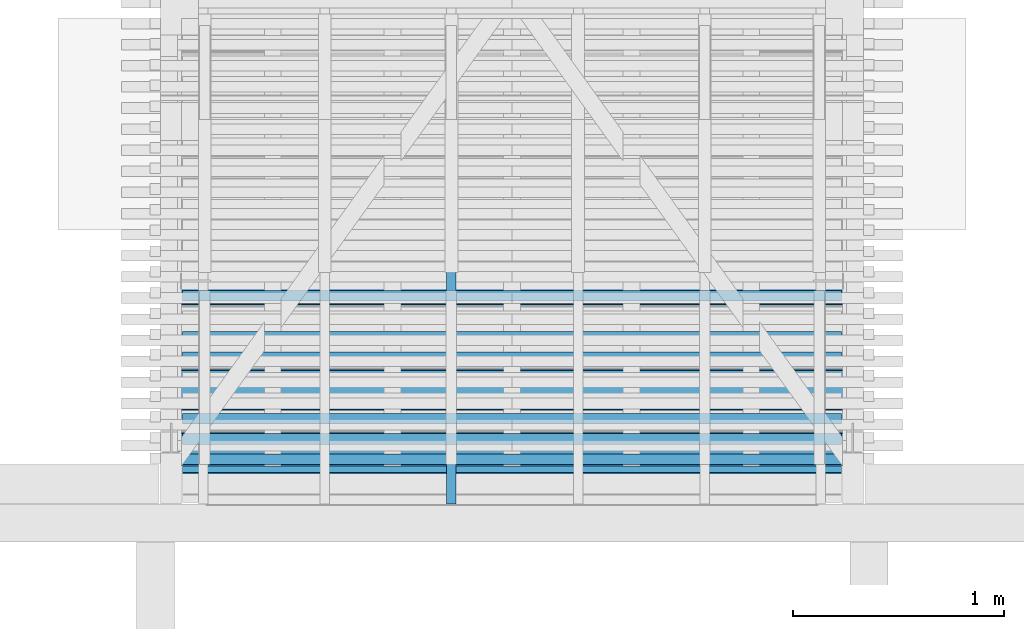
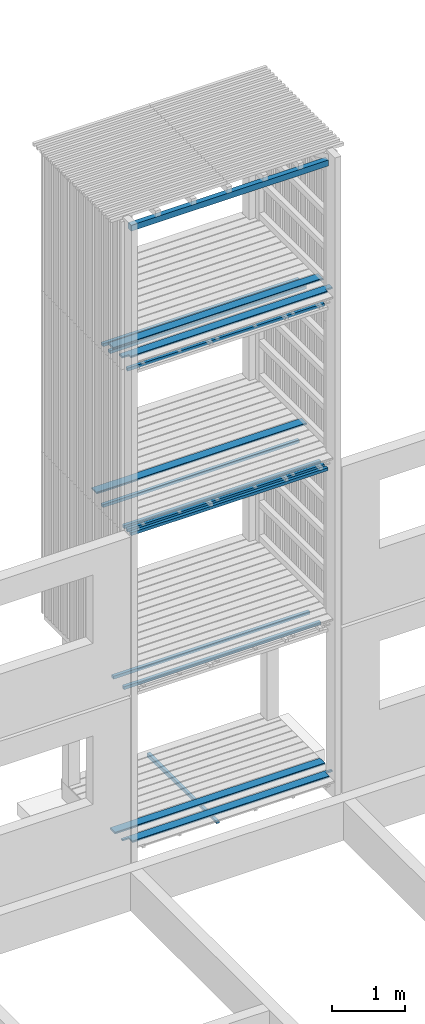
# One storey, part 37 of 182: 16 beams.
"""IFC2X3 building model written with IfcOpenShell, lengths in metres."""

from ifc_helpers import new_model, si_unit, frame, origin, place, context, project, spatial, faceted_brep, element, save


model = new_model("IFC2X3")

# Units and contexts
model_context = context("Model", 3, precision=1e-06, world=origin())
ifc_project = project(units=[si_unit("LENGTHUNIT", "METRE"), si_unit("PLANEANGLEUNIT", "RADIAN")], contexts=[model_context])

# Site, building, storey
site = spatial("IfcSite", under=ifc_project, CompositionType="ELEMENT")
building = spatial("IfcBuilding", under=site, CompositionType="ELEMENT")
storey = spatial("IfcBuildingStorey", under=building, Name="vs", CompositionType="ELEMENT", Elevation=-0.85)

# Beams
placement = place(None, origin())
beam_1_placement = place(placement, frame((16.654197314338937, 10.734577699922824, 8.13349999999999), z_axis=(0.0, 0.0, 1.0), x_axis=(-1.0, 0.0, 0.0)))
element("IfcBeam", 1, at=beam_1_placement, inside=storey, Name="Caillebotis", context=model_context, shape_type="Brep", body=[
    faceted_brep([(0.0, -0.072499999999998, -0.013500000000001), (0.0, -0.072499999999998, 0.0085), (0.0, -0.067499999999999, 0.013499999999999), (0.0, 0.019500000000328, 0.013499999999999), (0.0, 0.019500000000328, -0.013500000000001), (3.329999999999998, -0.067499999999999, 0.013499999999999), (3.329999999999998, 0.019500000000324, 0.013499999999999), (3.225000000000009, 0.019500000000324, 0.013499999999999), (3.225000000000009, 0.067500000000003, 0.013499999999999), (0.105000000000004, 0.067500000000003, 0.013499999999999), (0.105000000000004, 0.019500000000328, 0.013499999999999), (0.0, 0.019500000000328, 0.013499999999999), (0.0, -0.067499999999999, 0.013499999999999), (0.105000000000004, 0.019500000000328, 0.013499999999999), (0.105000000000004, 0.067500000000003, 0.013499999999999), (0.105000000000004, 0.072500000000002, 0.0085), (0.105000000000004, 0.072500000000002, -0.013500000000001), (0.105000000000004, 0.019500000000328, -0.013500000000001), (0.105000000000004, 0.072500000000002, 0.0085), (0.105000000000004, 0.067500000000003, 0.013499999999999), (3.225000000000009, 0.067500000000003, 0.013499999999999), (3.225000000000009, 0.072500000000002, 0.008499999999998), (0.105000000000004, 0.072500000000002, -0.013500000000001), (0.105000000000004, 0.072500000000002, 0.0085), (3.225000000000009, 0.072500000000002, 0.008499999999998), (3.225000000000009, 0.072500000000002, -0.013500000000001), (3.225000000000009, 0.072500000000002, -0.013500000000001), (3.225000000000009, 0.072500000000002, 0.008499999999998), (3.225000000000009, 0.067500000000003, 0.013499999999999), (3.225000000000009, 0.019500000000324, 0.013499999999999), (3.225000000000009, 0.019500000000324, -0.013500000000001), (3.225000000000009, 0.019500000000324, -0.013500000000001), (3.225000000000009, 0.019500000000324, 0.013499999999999), (3.329999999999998, 0.019500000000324, 0.013499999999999), (3.329999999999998, 0.019500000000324, -0.013500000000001), (3.329999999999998, -0.072499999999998, 0.0085), (3.329999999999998, -0.072499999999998, -0.013500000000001), (3.329999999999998, 0.019500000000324, -0.013500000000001), (3.329999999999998, 0.019500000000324, 0.013499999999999), (3.329999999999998, -0.067499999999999, 0.013499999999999), (3.329999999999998, -0.072499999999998, 0.0085), (3.329999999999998, -0.067499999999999, 0.013499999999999), (0.0, -0.067499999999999, 0.013499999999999), (0.0, -0.072499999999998, 0.0085), (3.329999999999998, -0.072499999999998, -0.013500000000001), (3.329999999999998, -0.072499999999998, 0.0085), (0.0, -0.072499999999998, 0.0085), (0.0, -0.072499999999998, -0.013500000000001), (0.105000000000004, 0.019500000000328, -0.013500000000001), (0.105000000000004, 0.072500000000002, -0.013500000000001), (3.225000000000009, 0.072500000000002, -0.013500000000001), (3.225000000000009, 0.019500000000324, -0.013500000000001), (3.329999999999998, 0.019500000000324, -0.013500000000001), (3.329999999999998, -0.072499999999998, -0.013500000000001), (0.0, -0.072499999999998, -0.013500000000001), (0.0, 0.019500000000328, -0.013500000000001), (0.0, 0.019500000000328, 0.013499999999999), (0.105000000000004, 0.019500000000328, 0.013499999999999), (0.105000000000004, 0.019500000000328, -0.013500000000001), (0.0, 0.019500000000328, -0.013500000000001)], [[[0, 1, 2, 3, 4]], [[5, 6, 7, 8, 9, 10, 11, 12]], [[13, 14, 15, 16, 17]], [[18, 19, 20, 21]], [[22, 23, 24, 25]], [[26, 27, 28, 29, 30]], [[31, 32, 33, 34]], [[35, 36, 37, 38, 39]], [[40, 41, 42, 43]], [[44, 45, 46, 47]], [[48, 49, 50, 51, 52, 53, 54, 55]], [[56, 57, 58, 59]]]),
])
beam_2_placement = place(placement, frame((14.70219731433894, 10.4700776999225, -0.015599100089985), z_axis=(0.0, 0.0, 1.0), x_axis=(0.0, 1.0, 0.0)))
element("IfcBeam", 2, at=beam_2_placement, inside=storey, Name="Calage", context=model_context, shape_type="Brep", body=[
    faceted_brep([(0.0, 0.022500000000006, 0.002600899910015), (1.91000000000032, 0.022500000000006, -0.035599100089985), (1.91000000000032, -0.022499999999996, -0.035599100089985), (0.0, -0.022499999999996, 0.002600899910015), (0.0, -0.022499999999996, 0.035599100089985), (0.0, 0.022500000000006, 0.035599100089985), (0.0, 0.022500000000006, 0.002600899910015), (0.0, -0.022499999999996, 0.002600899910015), (0.0, 0.022500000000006, 0.035599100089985), (0.0, -0.022499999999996, 0.035599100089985), (1.910000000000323, -0.022499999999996, 0.035599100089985), (1.910000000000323, 0.022500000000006, 0.035599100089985), (0.0, 0.022500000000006, 0.002600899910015), (0.0, 0.022500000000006, 0.035599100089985), (1.910000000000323, 0.022500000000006, 0.035599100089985), (1.91000000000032, 0.022500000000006, -0.035599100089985), (1.91000000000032, 0.022500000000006, -0.035599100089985), (1.910000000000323, 0.022500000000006, 0.035599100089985), (1.910000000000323, -0.022499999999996, 0.035599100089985), (1.91000000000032, -0.022499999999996, -0.035599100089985), (1.91000000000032, -0.022499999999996, -0.035599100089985), (1.910000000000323, -0.022499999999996, 0.035599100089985), (0.0, -0.022499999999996, 0.035599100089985), (0.0, -0.022499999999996, 0.002600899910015)], [[[0, 1, 2, 3]], [[4, 5, 6, 7]], [[8, 9, 10, 11]], [[12, 13, 14, 15]], [[16, 17, 18, 19]], [[20, 21, 22, 23]]]),
])
beam_3_placement = place(placement, frame((16.549197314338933, 10.776952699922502, 7.867999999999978), z_axis=(0.0, 0.0, 1.0), x_axis=(-1.0, 0.0, 0.0)))
element("IfcBeam", 3, at=beam_3_placement, inside=storey, Name="Bardage", context=model_context, shape_type="Brep", body=[
    faceted_brep([(3.120000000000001, 0.025000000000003, -0.025000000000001), (3.120000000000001, -0.024999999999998, -0.025000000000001), (-3e-15, -0.024999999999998, -0.025000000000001), (-3e-15, 0.025000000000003, -0.025000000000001), (-3e-15, -0.024999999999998, -0.025000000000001), (3.120000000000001, -0.024999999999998, -0.025000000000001), (3.120000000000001, -0.024999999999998, 0.024999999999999), (-3e-15, -0.024999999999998, 0.024999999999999), (3.120000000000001, -0.024999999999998, -0.025000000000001), (3.120000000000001, 0.025000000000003, -0.025000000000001), (3.120000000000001, 0.025000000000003, 0.024999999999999), (3.120000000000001, -0.024999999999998, 0.024999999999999), (3.120000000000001, 0.025000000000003, 0.024999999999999), (3.120000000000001, 0.025000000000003, -0.025000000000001), (-3e-15, 0.025000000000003, -0.025000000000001), (-3e-15, 0.025000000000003, 0.024999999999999), (-3e-15, -0.024999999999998, 0.024999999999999), (3.120000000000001, -0.024999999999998, 0.024999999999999), (3.120000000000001, 0.025000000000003, 0.024999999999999), (-3e-15, 0.025000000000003, 0.024999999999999), (-3e-15, -0.024999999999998, -0.025000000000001), (-3e-15, -0.024999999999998, 0.024999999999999), (-3e-15, 0.025000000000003, 0.024999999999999), (-3e-15, 0.025000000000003, -0.025000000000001)], [[[0, 1, 2, 3]], [[4, 5, 6, 7]], [[8, 9, 10, 11]], [[12, 13, 14, 15]], [[16, 17, 18, 19]], [[20, 21, 22, 23]]]),
])
beam_4_placement = place(placement, frame((16.654197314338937, 11.034577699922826, 8.13349999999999), z_axis=(0.0, 0.0, 1.0), x_axis=(-1.0, -1e-15, 0.0)))
element("IfcBeam", 4, at=beam_4_placement, inside=storey, Name="Caillebotis", context=model_context, shape_type="Brep", body=[
    faceted_brep([(3.329999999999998, -0.072500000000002, -0.013500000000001), (3.329999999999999, 0.072500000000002, -0.013500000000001), (3.329999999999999, 0.072500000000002, 0.008499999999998), (3.329999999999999, 0.067499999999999, 0.013499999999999), (3.329999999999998, -0.067499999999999, 0.013499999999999), (3.329999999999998, -0.072500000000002, 0.0085), (0.0, -0.072499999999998, 0.0085), (0.0, -0.067499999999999, 0.013499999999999), (0.0, 0.067500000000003, 0.013499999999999), (0.0, 0.072500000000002, 0.008499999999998), (0.0, 0.072500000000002, -0.013500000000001), (0.0, -0.072499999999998, -0.013500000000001), (3.329999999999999, 0.072500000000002, 0.008499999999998), (3.329999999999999, 0.072500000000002, -0.013500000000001), (0.0, 0.072500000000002, -0.013500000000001), (0.0, 0.072500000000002, 0.008499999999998), (3.329999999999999, 0.067499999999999, 0.013499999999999), (3.329999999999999, 0.072500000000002, 0.008499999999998), (0.0, 0.072500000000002, 0.008499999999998), (0.0, 0.067500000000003, 0.013499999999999), (3.329999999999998, -0.067499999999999, 0.013499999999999), (3.329999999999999, 0.067499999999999, 0.013499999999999), (0.0, 0.067500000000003, 0.013499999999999), (0.0, -0.067499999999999, 0.013499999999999), (3.329999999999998, -0.072500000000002, 0.0085), (3.329999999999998, -0.067499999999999, 0.013499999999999), (0.0, -0.067499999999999, 0.013499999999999), (0.0, -0.072499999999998, 0.0085), (3.329999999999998, -0.072500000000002, -0.013500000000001), (3.329999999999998, -0.072500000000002, 0.0085), (0.0, -0.072499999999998, 0.0085), (0.0, -0.072499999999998, -0.013500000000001), (0.0, 0.072500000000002, -0.013500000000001), (3.329999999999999, 0.072500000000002, -0.013500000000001), (3.329999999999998, -0.072500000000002, -0.013500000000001), (0.0, -0.072499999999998, -0.013500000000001)], [[[0, 1, 2, 3, 4, 5]], [[6, 7, 8, 9, 10, 11]], [[12, 13, 14, 15]], [[16, 17, 18, 19]], [[20, 21, 22, 23]], [[24, 25, 26, 27]], [[28, 29, 30, 31]], [[32, 33, 34, 35]]]),
])
beam_5_placement = place(placement, frame((16.549197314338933, 11.261327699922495, 7.867999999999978), z_axis=(0.0, 0.0, 1.0), x_axis=(-1.0, 0.0, 0.0)))
element("IfcBeam", 5, at=beam_5_placement, inside=storey, Name="Bardage", context=model_context, shape_type="Brep", body=[
    faceted_brep([(3.120000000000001, 0.024999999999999, -0.025000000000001), (3.120000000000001, -0.024999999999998, -0.025000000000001), (-3e-15, -0.025000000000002, -0.025000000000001), (-3e-15, 0.024999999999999, -0.025000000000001), (-3e-15, -0.025000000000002, -0.025000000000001), (3.120000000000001, -0.024999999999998, -0.025000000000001), (3.120000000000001, -0.024999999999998, 0.024999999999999), (-3e-15, -0.025000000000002, 0.024999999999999), (3.120000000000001, -0.024999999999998, -0.025000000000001), (3.120000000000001, 0.024999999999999, -0.025000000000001), (3.120000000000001, 0.024999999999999, 0.024999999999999), (3.120000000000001, -0.024999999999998, 0.024999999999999), (3.120000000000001, 0.024999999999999, 0.024999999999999), (3.120000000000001, 0.024999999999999, -0.025000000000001), (-3e-15, 0.024999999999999, -0.025000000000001), (-3e-15, 0.024999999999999, 0.024999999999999), (-3e-15, -0.025000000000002, 0.024999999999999), (3.120000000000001, -0.024999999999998, 0.024999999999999), (3.120000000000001, 0.024999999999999, 0.024999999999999), (-3e-15, 0.024999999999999, 0.024999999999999), (-3e-15, -0.025000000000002, -0.025000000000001), (-3e-15, -0.025000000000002, 0.024999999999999), (-3e-15, 0.024999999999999, 0.024999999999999), (-3e-15, 0.024999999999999, -0.025000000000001)], [[[0, 1, 2, 3]], [[4, 5, 6, 7]], [[8, 9, 10, 11]], [[12, 13, 14, 15]], [[16, 17, 18, 19]], [[20, 21, 22, 23]]]),
])
beam_6_placement = place(placement, frame((16.654197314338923, 10.984577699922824, 0.033500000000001), z_axis=(0.0, 0.0, 1.0), x_axis=(-1.0, -1e-15, 0.0)))
element("IfcBeam", 6, at=beam_6_placement, inside=storey, Name="Caillebotis", context=model_context, shape_type="Brep", body=[
    faceted_brep([(3.329999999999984, -0.067500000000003, 0.0135), (3.329999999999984, -0.072500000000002, 0.008500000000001), (3.329999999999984, -0.072499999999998, -0.013500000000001), (3.329999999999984, 0.072499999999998, -0.013500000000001), (3.329999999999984, 0.072499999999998, 0.0085), (3.329999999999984, 0.067500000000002, 0.0135), (0.0, 0.067500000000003, 0.0135), (0.0, 0.072500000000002, 0.0085), (0.0, 0.072500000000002, -0.013500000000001), (0.0, -0.072499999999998, -0.013500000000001), (0.0, -0.072499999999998, 0.008500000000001), (0.0, -0.067499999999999, 0.0135), (3.329999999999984, -0.072499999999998, -0.013500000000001), (3.329999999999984, -0.072500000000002, 0.008500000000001), (0.0, -0.072499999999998, 0.008500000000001), (0.0, -0.072499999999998, -0.013500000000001), (3.329999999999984, 0.072499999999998, -0.013500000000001), (3.329999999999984, -0.072499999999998, -0.013500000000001), (0.0, -0.072499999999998, -0.013500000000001), (0.0, 0.072500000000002, -0.013500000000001), (3.329999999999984, 0.072499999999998, 0.0085), (3.329999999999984, 0.072499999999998, -0.013500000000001), (0.0, 0.072500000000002, -0.013500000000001), (0.0, 0.072500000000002, 0.0085), (3.329999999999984, 0.067500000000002, 0.0135), (3.329999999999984, 0.072499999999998, 0.0085), (0.0, 0.072500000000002, 0.0085), (0.0, 0.067500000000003, 0.0135), (3.329999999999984, -0.067500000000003, 0.0135), (3.329999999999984, 0.067500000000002, 0.0135), (0.0, 0.067500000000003, 0.0135), (0.0, -0.067499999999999, 0.0135), (0.0, -0.072499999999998, 0.008500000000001), (3.329999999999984, -0.072500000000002, 0.008500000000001), (3.329999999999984, -0.067500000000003, 0.0135), (0.0, -0.067499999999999, 0.0135)], [[[0, 1, 2, 3, 4, 5]], [[6, 7, 8, 9, 10, 11]], [[12, 13, 14, 15]], [[16, 17, 18, 19]], [[20, 21, 22, 23]], [[24, 25, 26, 27]], [[28, 29, 30, 31]], [[32, 33, 34, 35]]]),
])
beam_7_placement = place(placement, frame((16.654197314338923, 11.484577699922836, 5.433499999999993), z_axis=(0.0, 0.0, 1.0), x_axis=(-1.0, -8e-15, 0.0)))
element("IfcBeam", 7, at=beam_7_placement, inside=storey, Name="Caillebotis", context=model_context, shape_type="Brep", body=[
    faceted_brep([(3.329999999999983, -0.072500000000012, -0.0135), (3.329999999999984, 0.072499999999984, -0.0135), (3.329999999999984, 0.072499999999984, 0.0085), (3.329999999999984, 0.067499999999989, 0.0135), (3.329999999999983, -0.067500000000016, 0.0135), (3.329999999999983, -0.072500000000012, 0.008500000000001), (-1.5e-14, -0.072499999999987, 0.008500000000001), (-1.5e-14, -0.067499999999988, 0.0135), (-1.4e-14, 0.067500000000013, 0.0135), (-1.4e-14, 0.072500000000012, 0.0085), (-1.4e-14, 0.072500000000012, -0.0135), (-1.5e-14, -0.072499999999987, -0.0135), (3.329999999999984, 0.072499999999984, 0.0085), (3.329999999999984, 0.072499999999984, -0.0135), (-1.4e-14, 0.072500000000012, -0.0135), (-1.4e-14, 0.072500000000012, 0.0085), (3.329999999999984, 0.067499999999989, 0.0135), (3.329999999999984, 0.072499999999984, 0.0085), (-1.4e-14, 0.072500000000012, 0.0085), (-1.4e-14, 0.067500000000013, 0.0135), (3.329999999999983, -0.067500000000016, 0.0135), (3.329999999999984, 0.067499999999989, 0.0135), (-1.4e-14, 0.067500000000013, 0.0135), (-1.5e-14, -0.067499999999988, 0.0135), (3.329999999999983, -0.072500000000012, 0.008500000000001), (3.329999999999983, -0.067500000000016, 0.0135), (-1.5e-14, -0.067499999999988, 0.0135), (-1.5e-14, -0.072499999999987, 0.008500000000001), (3.329999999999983, -0.072500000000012, -0.0135), (3.329999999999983, -0.072500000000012, 0.008500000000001), (-1.5e-14, -0.072499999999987, 0.008500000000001), (-1.5e-14, -0.072499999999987, -0.0135), (-1.4e-14, 0.072500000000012, -0.0135), (3.329999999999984, 0.072499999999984, -0.0135), (3.329999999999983, -0.072500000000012, -0.0135), (-1.5e-14, -0.072499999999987, -0.0135)], [[[0, 1, 2, 3, 4, 5]], [[6, 7, 8, 9, 10, 11]], [[12, 13, 14, 15]], [[16, 17, 18, 19]], [[20, 21, 22, 23]], [[24, 25, 26, 27]], [[28, 29, 30, 31]], [[32, 33, 34, 35]]]),
])
beam_8_placement = place(placement, frame((16.549197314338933, 10.873827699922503, 2.467999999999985), z_axis=(0.0, 0.0, 1.0), x_axis=(-1.0, 0.0, 0.0)))
element("IfcBeam", 8, at=beam_8_placement, inside=storey, Name="Bardage", context=model_context, shape_type="Brep", body=[
    faceted_brep([(3.120000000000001, 0.025000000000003, -0.025), (3.120000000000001, -0.024999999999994, -0.025), (-3e-15, -0.024999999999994, -0.025), (-3e-15, 0.025000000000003, -0.025), (-3e-15, -0.024999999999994, -0.025), (3.120000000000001, -0.024999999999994, -0.025), (3.120000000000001, -0.024999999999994, 0.025), (-3e-15, -0.024999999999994, 0.025), (3.120000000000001, -0.024999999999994, -0.025), (3.120000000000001, 0.025000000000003, -0.025), (3.120000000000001, 0.025000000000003, 0.025), (3.120000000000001, -0.024999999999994, 0.025), (3.120000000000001, 0.025000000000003, 0.025), (3.120000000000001, 0.025000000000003, -0.025), (-3e-15, 0.025000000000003, -0.025), (-3e-15, 0.025000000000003, 0.025), (-3e-15, -0.024999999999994, 0.025), (3.120000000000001, -0.024999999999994, 0.025), (3.120000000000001, 0.025000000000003, 0.025), (-3e-15, 0.025000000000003, 0.025), (-3e-15, -0.024999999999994, -0.025), (-3e-15, -0.024999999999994, 0.025), (-3e-15, 0.025000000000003, 0.025), (-3e-15, 0.025000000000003, -0.025)], [[[0, 1, 2, 3]], [[4, 5, 6, 7]], [[8, 9, 10, 11]], [[12, 13, 14, 15]], [[16, 17, 18, 19]], [[20, 21, 22, 23]]]),
])
beam_9_placement = place(placement, frame((16.549197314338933, 10.680077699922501, 5.167999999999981), z_axis=(0.0, 0.0, 1.0), x_axis=(-1.0, 0.0, 0.0)))
element("IfcBeam", 9, at=beam_9_placement, inside=storey, Name="Bardage", context=model_context, shape_type="Brep", body=[
    faceted_brep([(3.120000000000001, -0.025000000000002, 0.025000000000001), (3.120000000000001, -0.025000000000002, -0.025), (3.120000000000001, 0.024999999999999, -0.025), (3.120000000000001, 0.024999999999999, 0.025000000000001), (-3e-15, 0.024999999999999, 0.025000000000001), (-3e-15, 0.024999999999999, -0.025), (-3e-15, -0.024999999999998, -0.025), (-3e-15, -0.024999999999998, 0.025000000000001), (3.120000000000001, -0.025000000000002, -0.025), (3.120000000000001, -0.025000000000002, 0.025000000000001), (-3e-15, -0.024999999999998, 0.025000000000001), (-3e-15, -0.024999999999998, -0.025), (3.120000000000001, 0.024999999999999, -0.025), (3.120000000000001, -0.025000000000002, -0.025), (-3e-15, -0.024999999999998, -0.025), (-3e-15, 0.024999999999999, -0.025), (3.120000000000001, 0.024999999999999, 0.025000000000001), (3.120000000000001, 0.024999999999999, -0.025), (-3e-15, 0.024999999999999, -0.025), (-3e-15, 0.024999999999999, 0.025000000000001), (3.120000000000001, -0.025000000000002, 0.025000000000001), (3.120000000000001, 0.024999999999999, 0.025000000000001), (-3e-15, 0.024999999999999, 0.025000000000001), (-3e-15, -0.024999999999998, 0.025000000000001)], [[[0, 1, 2, 3]], [[4, 5, 6, 7]], [[8, 9, 10, 11]], [[12, 13, 14, 15]], [[16, 17, 18, 19]], [[20, 21, 22, 23]]]),
])
beam_10_placement = place(placement, frame((16.549197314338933, 11.455077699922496, 7.867999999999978), z_axis=(0.0, 0.0, 1.0), x_axis=(-1.0, -1e-15, 0.0)))
element("IfcBeam", 10, at=beam_10_placement, inside=storey, Name="Bardage", context=model_context, shape_type="Brep", body=[
    faceted_brep([(3.120000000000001, 0.025000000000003, -0.025000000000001), (3.120000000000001, -0.025000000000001, -0.025000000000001), (-3e-15, -0.024999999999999, -0.025000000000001), (-3e-15, 0.025000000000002, -0.025000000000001), (-3e-15, -0.024999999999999, -0.025000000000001), (3.120000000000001, -0.025000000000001, -0.025000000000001), (3.120000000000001, -0.025000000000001, 0.024999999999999), (-3e-15, -0.024999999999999, 0.024999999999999), (3.120000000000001, -0.025000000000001, -0.025000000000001), (3.120000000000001, 0.025000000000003, -0.025000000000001), (3.120000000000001, 0.025000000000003, 0.024999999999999), (3.120000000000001, -0.025000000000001, 0.024999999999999), (3.120000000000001, 0.025000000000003, 0.024999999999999), (3.120000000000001, 0.025000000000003, -0.025000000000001), (-3e-15, 0.025000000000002, -0.025000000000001), (-3e-15, 0.025000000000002, 0.024999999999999), (-3e-15, -0.024999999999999, 0.024999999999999), (3.120000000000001, -0.025000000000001, 0.024999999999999), (3.120000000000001, 0.025000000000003, 0.024999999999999), (-3e-15, 0.025000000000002, 0.024999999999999), (-3e-15, -0.024999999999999, -0.025000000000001), (-3e-15, -0.024999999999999, 0.024999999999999), (-3e-15, 0.025000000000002, 0.024999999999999), (-3e-15, 0.025000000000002, -0.025000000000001)], [[[0, 1, 2, 3]], [[4, 5, 6, 7]], [[8, 9, 10, 11]], [[12, 13, 14, 15]], [[16, 17, 18, 19]], [[20, 21, 22, 23]]]),
])
beam_11_placement = place(placement, frame((16.549197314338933, 10.776952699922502, 5.167999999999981), z_axis=(0.0, 0.0, 1.0), x_axis=(-1.0, 0.0, 0.0)))
element("IfcBeam", 11, at=beam_11_placement, inside=storey, Name="Bardage", context=model_context, shape_type="Brep", body=[
    faceted_brep([(3.120000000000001, 0.025000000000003, -0.025), (3.120000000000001, -0.024999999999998, -0.025), (-3e-15, -0.024999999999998, -0.025), (-3e-15, 0.025000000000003, -0.025), (-3e-15, -0.024999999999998, -0.025), (3.120000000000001, -0.024999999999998, -0.025), (3.120000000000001, -0.024999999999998, 0.025000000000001), (-3e-15, -0.024999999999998, 0.025000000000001), (3.120000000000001, -0.024999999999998, -0.025), (3.120000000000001, 0.025000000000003, -0.025), (3.120000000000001, 0.025000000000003, 0.025000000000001), (3.120000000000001, -0.024999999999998, 0.025000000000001), (3.120000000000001, 0.025000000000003, 0.025000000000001), (3.120000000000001, 0.025000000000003, -0.025), (-3e-15, 0.025000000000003, -0.025), (-3e-15, 0.025000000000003, 0.025000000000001), (-3e-15, -0.024999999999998, 0.025000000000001), (3.120000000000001, -0.024999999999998, 0.025000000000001), (3.120000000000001, 0.025000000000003, 0.025000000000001), (-3e-15, 0.025000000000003, 0.025000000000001), (-3e-15, -0.024999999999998, -0.025), (-3e-15, -0.024999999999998, 0.025000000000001), (-3e-15, 0.025000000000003, 0.025000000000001), (-3e-15, 0.025000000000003, -0.025)], [[[0, 1, 2, 3]], [[4, 5, 6, 7]], [[8, 9, 10, 11]], [[12, 13, 14, 15]], [[16, 17, 18, 19]], [[20, 21, 22, 23]]]),
])
beam_12_placement = place(placement, frame((16.654197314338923, 10.684577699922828, 0.033500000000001), z_axis=(0.0, 0.0, 1.0), x_axis=(-1.0, 0.0, 0.0)))
element("IfcBeam", 12, at=beam_12_placement, inside=storey, Name="Caillebotis", context=model_context, shape_type="Brep", body=[
    faceted_brep([(0.0, -0.072499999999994, -0.0135), (0.0, -0.072499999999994, 0.008500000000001), (0.0, -0.067499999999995, 0.0135), (0.0, -0.030499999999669, 0.0135), (0.0, -0.030499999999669, -0.0135), (3.329999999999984, -0.067499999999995, 0.0135), (3.329999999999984, -0.030499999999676, 0.0135), (3.224999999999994, -0.030499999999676, 0.0135), (3.224999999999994, 0.067500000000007, 0.0135), (0.104999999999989, 0.067500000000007, 0.0135), (0.104999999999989, -0.030499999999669, 0.0135), (0.0, -0.030499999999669, 0.0135), (0.0, -0.067499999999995, 0.0135), (0.104999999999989, -0.030499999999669, 0.0135), (0.104999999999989, 0.067500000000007, 0.0135), (0.104999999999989, 0.072500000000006, 0.0085), (0.104999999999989, 0.072500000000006, -0.0135), (0.104999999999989, -0.030499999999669, -0.0135), (0.104999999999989, 0.072500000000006, 0.0085), (0.104999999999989, 0.067500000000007, 0.0135), (3.224999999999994, 0.067500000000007, 0.0135), (3.224999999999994, 0.072500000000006, 0.0085), (0.104999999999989, 0.072500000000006, -0.0135), (0.104999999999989, 0.072500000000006, 0.0085), (3.224999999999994, 0.072500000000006, 0.0085), (3.224999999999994, 0.072500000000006, -0.013500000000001), (3.224999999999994, 0.072500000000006, -0.013500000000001), (3.224999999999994, 0.072500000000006, 0.0085), (3.224999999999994, 0.067500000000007, 0.0135), (3.224999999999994, -0.030499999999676, 0.0135), (3.224999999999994, -0.030499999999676, -0.013500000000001), (3.224999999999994, -0.030499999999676, -0.013500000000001), (3.224999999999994, -0.030499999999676, 0.0135), (3.329999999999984, -0.030499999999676, 0.0135), (3.329999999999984, -0.030499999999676, -0.013500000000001), (3.329999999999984, -0.072499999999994, 0.008500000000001), (3.329999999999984, -0.072499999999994, -0.013500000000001), (3.329999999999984, -0.030499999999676, -0.013500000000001), (3.329999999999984, -0.030499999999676, 0.0135), (3.329999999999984, -0.067499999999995, 0.0135), (3.329999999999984, -0.072499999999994, 0.008500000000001), (3.329999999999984, -0.067499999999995, 0.0135), (0.0, -0.067499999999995, 0.0135), (0.0, -0.072499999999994, 0.008500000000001), (3.329999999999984, -0.072499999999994, -0.013500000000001), (3.329999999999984, -0.072499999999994, 0.008500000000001), (0.0, -0.072499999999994, 0.008500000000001), (0.0, -0.072499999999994, -0.0135), (0.104999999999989, -0.030499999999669, -0.0135), (0.104999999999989, 0.072500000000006, -0.0135), (3.224999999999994, 0.072500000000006, -0.013500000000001), (3.224999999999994, -0.030499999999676, -0.013500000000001), (3.329999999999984, -0.030499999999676, -0.013500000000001), (3.329999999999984, -0.072499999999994, -0.013500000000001), (0.0, -0.072499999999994, -0.0135), (0.0, -0.030499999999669, -0.0135), (0.0, -0.030499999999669, 0.0135), (0.104999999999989, -0.030499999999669, 0.0135), (0.104999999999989, -0.030499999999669, -0.0135), (0.0, -0.030499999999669, -0.0135)], [[[0, 1, 2, 3, 4]], [[5, 6, 7, 8, 9, 10, 11, 12]], [[13, 14, 15, 16, 17]], [[18, 19, 20, 21]], [[22, 23, 24, 25]], [[26, 27, 28, 29, 30]], [[31, 32, 33, 34]], [[35, 36, 37, 38, 39]], [[40, 41, 42, 43]], [[44, 45, 46, 47]], [[48, 49, 50, 51, 52, 53, 54, 55]], [[56, 57, 58, 59]]]),
])
beam_13_placement = place(placement, frame((16.549197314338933, 10.873827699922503, 5.167999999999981), z_axis=(0.0, 0.0, 1.0), x_axis=(-1.0, 0.0, 0.0)))
element("IfcBeam", 13, at=beam_13_placement, inside=storey, Name="Bardage", context=model_context, shape_type="Brep", body=[
    faceted_brep([(3.120000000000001, 0.025000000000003, -0.025), (3.120000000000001, -0.024999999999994, -0.025), (-3e-15, -0.024999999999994, -0.025), (-3e-15, 0.025000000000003, -0.025), (-3e-15, -0.024999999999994, -0.025), (3.120000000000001, -0.024999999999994, -0.025), (3.120000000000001, -0.024999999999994, 0.025000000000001), (-3e-15, -0.024999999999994, 0.025000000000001), (3.120000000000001, -0.024999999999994, -0.025), (3.120000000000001, 0.025000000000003, -0.025), (3.120000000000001, 0.025000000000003, 0.025000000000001), (3.120000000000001, -0.024999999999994, 0.025000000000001), (3.120000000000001, 0.025000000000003, 0.025000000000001), (3.120000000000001, 0.025000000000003, -0.025), (-3e-15, 0.025000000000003, -0.025), (-3e-15, 0.025000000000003, 0.025000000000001), (-3e-15, -0.024999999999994, 0.025000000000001), (3.120000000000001, -0.024999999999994, 0.025000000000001), (3.120000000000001, 0.025000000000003, 0.025000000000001), (-3e-15, 0.025000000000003, 0.025000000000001), (-3e-15, -0.024999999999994, -0.025), (-3e-15, -0.024999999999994, 0.025000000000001), (-3e-15, 0.025000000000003, 0.025000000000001), (-3e-15, 0.025000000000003, -0.025)], [[[0, 1, 2, 3]], [[4, 5, 6, 7]], [[8, 9, 10, 11]], [[12, 13, 14, 15]], [[16, 17, 18, 19]], [[20, 21, 22, 23]]]),
])
beam_14_placement = place(placement, frame((16.549197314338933, 11.455077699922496, 5.167999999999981), z_axis=(0.0, 0.0, 1.0), x_axis=(-1.0, -1e-15, 0.0)))
element("IfcBeam", 14, at=beam_14_placement, inside=storey, Name="Bardage", context=model_context, shape_type="Brep", body=[
    faceted_brep([(3.120000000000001, 0.025000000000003, -0.025), (3.120000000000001, -0.025000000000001, -0.025), (-3e-15, -0.024999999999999, -0.025), (-3e-15, 0.025000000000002, -0.025), (-3e-15, -0.024999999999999, -0.025), (3.120000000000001, -0.025000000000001, -0.025), (3.120000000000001, -0.025000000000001, 0.025000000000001), (-3e-15, -0.024999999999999, 0.025000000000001), (3.120000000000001, -0.025000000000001, -0.025), (3.120000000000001, 0.025000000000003, -0.025), (3.120000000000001, 0.025000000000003, 0.025000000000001), (3.120000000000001, -0.025000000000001, 0.025000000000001), (3.120000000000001, 0.025000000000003, 0.025000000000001), (3.120000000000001, 0.025000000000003, -0.025), (-3e-15, 0.025000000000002, -0.025), (-3e-15, 0.025000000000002, 0.025000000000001), (-3e-15, -0.024999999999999, 0.025000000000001), (3.120000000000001, -0.025000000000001, 0.025000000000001), (3.120000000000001, 0.025000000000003, 0.025000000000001), (-3e-15, 0.025000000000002, 0.025000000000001), (-3e-15, -0.024999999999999, -0.025), (-3e-15, -0.024999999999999, 0.025000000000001), (-3e-15, 0.025000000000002, 0.025000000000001), (-3e-15, 0.025000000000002, -0.025)], [[[0, 1, 2, 3]], [[4, 5, 6, 7]], [[8, 9, 10, 11]], [[12, 13, 14, 15]], [[16, 17, 18, 19]], [[20, 21, 22, 23]]]),
])
beam_15_placement = place(placement, frame((16.554197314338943, 10.6900776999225, 10.30499999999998), z_axis=(0.0, 0.0, 1.0), x_axis=(-1.0, 0.0, 0.0)))
element("IfcBeam", 15, at=beam_15_placement, inside=storey, Name="Support bardage", context=model_context, shape_type="Brep", body=[
    faceted_brep([(2e-15, 0.04, -0.050000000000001), (2e-15, -0.039999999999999, -0.050000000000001), (2e-15, -0.039999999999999, 0.050000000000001), (2e-15, 0.04, 0.050000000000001), (3.130000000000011, -0.039999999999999, 0.050000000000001), (3.130000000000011, -0.039999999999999, -0.050000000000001), (3.130000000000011, 0.04, -0.050000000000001), (3.130000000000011, 0.04, 0.050000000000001), (2e-15, -0.039999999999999, 0.050000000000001), (2e-15, -0.039999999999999, -0.050000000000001), (3.130000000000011, -0.039999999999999, -0.050000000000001), (3.130000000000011, -0.039999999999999, 0.050000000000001), (3.130000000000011, -0.039999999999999, -0.050000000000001), (2e-15, -0.039999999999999, -0.050000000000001), (2e-15, 0.04, -0.050000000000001), (3.130000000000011, 0.04, -0.050000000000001), (3.130000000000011, 0.04, -0.050000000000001), (2e-15, 0.04, -0.050000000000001), (2e-15, 0.04, 0.050000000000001), (3.130000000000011, 0.04, 0.050000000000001), (3.130000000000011, 0.04, 0.050000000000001), (2e-15, 0.04, 0.050000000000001), (2e-15, -0.039999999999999, 0.050000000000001), (3.130000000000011, -0.039999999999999, 0.050000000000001)], [[[0, 1, 2, 3]], [[4, 5, 6, 7]], [[8, 9, 10, 11]], [[12, 13, 14, 15]], [[16, 17, 18, 19]], [[20, 21, 22, 23]]]),
])
beam_16_placement = place(placement, frame((16.549197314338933, 11.164452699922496, 2.467999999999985), z_axis=(0.0, 0.0, 1.0), x_axis=(-1.0, 0.0, 0.0)))
element("IfcBeam", 16, at=beam_16_placement, inside=storey, Name="Bardage", context=model_context, shape_type="Brep", body=[
    faceted_brep([(3.120000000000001, 0.025000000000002, -0.025), (3.120000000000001, -0.024999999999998, -0.025), (-3e-15, -0.024999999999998, -0.025), (-3e-15, 0.024999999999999, -0.025), (-3e-15, -0.024999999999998, -0.025), (3.120000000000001, -0.024999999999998, -0.025), (3.120000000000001, -0.024999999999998, 0.025), (-3e-15, -0.024999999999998, 0.025), (3.120000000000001, -0.024999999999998, -0.025), (3.120000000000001, 0.025000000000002, -0.025), (3.120000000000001, 0.025000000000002, 0.025), (3.120000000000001, -0.024999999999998, 0.025), (3.120000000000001, 0.025000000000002, 0.025), (3.120000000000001, 0.025000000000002, -0.025), (-3e-15, 0.024999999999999, -0.025), (-3e-15, 0.024999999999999, 0.025), (-3e-15, -0.024999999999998, 0.025), (3.120000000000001, -0.024999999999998, 0.025), (3.120000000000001, 0.025000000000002, 0.025), (-3e-15, 0.024999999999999, 0.025), (-3e-15, -0.024999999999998, -0.025), (-3e-15, -0.024999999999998, 0.025), (-3e-15, 0.024999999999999, 0.025), (-3e-15, 0.024999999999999, -0.025)], [[[0, 1, 2, 3]], [[4, 5, 6, 7]], [[8, 9, 10, 11]], [[12, 13, 14, 15]], [[16, 17, 18, 19]], [[20, 21, 22, 23]]]),
])

save(model, "model.ifc")
